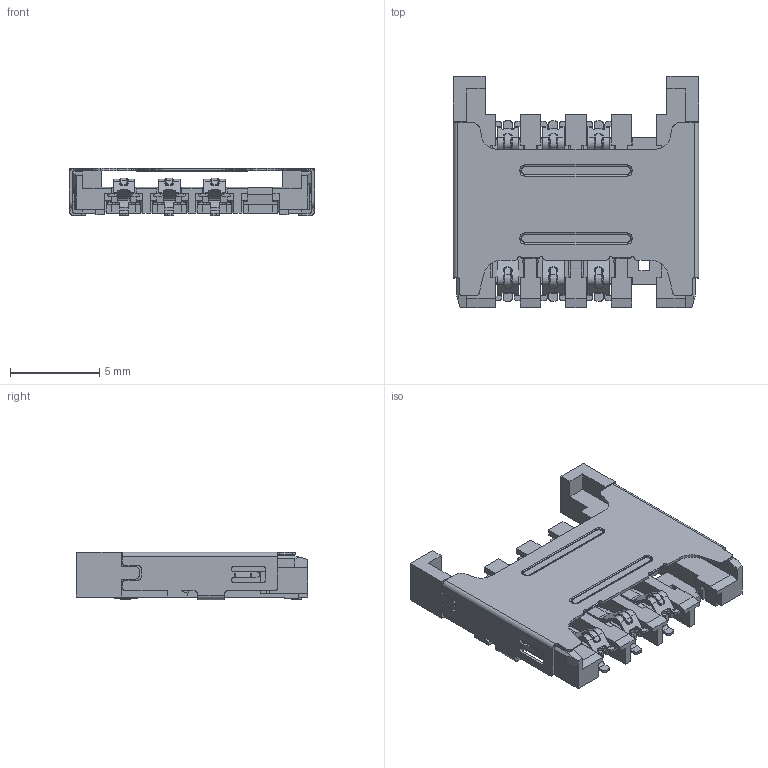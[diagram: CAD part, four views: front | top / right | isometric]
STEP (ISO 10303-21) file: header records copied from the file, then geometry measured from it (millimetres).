
FILE_DESCRIPTION((''),'2;1');
FILE_NAME('MICRO-SIM_1050622AR002','2018-09-06T',('Administrator'),(''),'PRO/ENGINEER BY PARAMETRIC TECHNOLOGY CORPORATION, 2010280','PRO/ENGINEER BY PARAMETRIC TECHNOLOGY CORPORATION, 2010280','');
FILE_SCHEMA(('CONFIG_CONTROL_DESIGN'));
Products named in the file (1): MICRO-SIM_1050622AR002
Bounding box: 13.7 x 12.91 x 2.65 mm (x, y, z)
Volume: 159.9 mm3; surface area: 922.6 mm2
Topology: 1 solids, 1 shells, 1625 faces, 4584 edges, 2933 vertices
Faces by surface type: plane 885, cylinder 582, bspline 96, torus 44, cone 18
Entity records: 62146 total; most frequent: CARTESIAN_POINT 19913, ORIENTED_EDGE 9168, DIRECTION 8533, EDGE_CURVE 4584, VECTOR 3101, LINE 3101, VERTEX_POINT 2933, AXIS2_PLACEMENT_3D 2716
